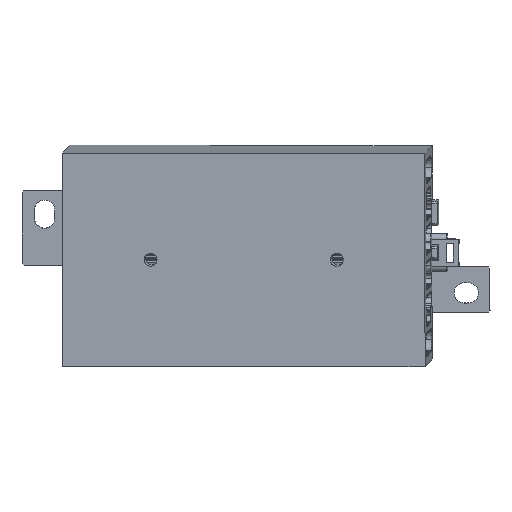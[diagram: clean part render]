
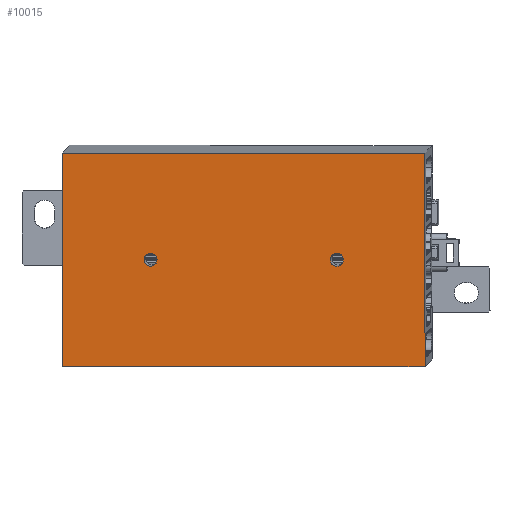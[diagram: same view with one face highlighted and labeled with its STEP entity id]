
A CAD part, top view. The second image highlights one B-rep face of the part: STEP entity #10015.
In plain terms, the highlighted planar face has unit normal (-0.034, -0.038, 0.999).
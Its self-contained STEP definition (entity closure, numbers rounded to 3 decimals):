
#64 = CARTESIAN_POINT ( 'NONE',  ( -13.419, -40.403, 77.893 ) ) ;
#491 = AXIS2_PLACEMENT_3D ( 'NONE', #21376, #1491, #9250 ) ;
#685 = ORIENTED_EDGE ( 'NONE', *, *, #8926, .T. ) ;
#735 = DIRECTION ( 'NONE',  ( -0.001, 0.999, 0.038 ) ) ;
#925 = VERTEX_POINT ( 'NONE', #7212 ) ;
#1102 = CARTESIAN_POINT ( 'NONE',  ( -13.419, -42.052, 77.83 ) ) ;
#1267 = VERTEX_POINT ( 'NONE', #25517 ) ;
#1382 = ORIENTED_EDGE ( 'NONE', *, *, #21923, .T. ) ;
#1434 = VERTEX_POINT ( 'NONE', #9667 ) ;
#1491 = DIRECTION ( 'NONE',  ( 0.034, 0.038, -0.999 ) ) ;
#1920 = CARTESIAN_POINT ( 'NONE',  ( -83.31, -67.538, 74.454 ) ) ;
#2940 = DIRECTION ( 'NONE',  ( 0., -0.999, -0.038 ) ) ;
#3654 = AXIS2_PLACEMENT_3D ( 'NONE', #17298, #22976, #15250 ) ;
#4037 = ORIENTED_EDGE ( 'NONE', *, *, #5801, .T. ) ;
#4265 = CIRCLE ( 'NONE', #3654, 1.65 ) ;
#4399 = DIRECTION ( 'NONE',  ( -0.034, -0.038, 0.999 ) ) ;
#4877 = DIRECTION ( 'NONE',  ( 0.034, 0.038, -0.999 ) ) ;
#5801 = EDGE_CURVE ( 'NONE', #10524, #7488, #12225, .T. ) ;
#5899 = EDGE_CURVE ( 'NONE', #925, #13263, #4265, .T. ) ;
#6060 = EDGE_CURVE ( 'NONE', #1267, #1434, #8089, .T. ) ;
#6921 = CARTESIAN_POINT ( 'NONE',  ( -60.891, -40.372, 76.262 ) ) ;
#7212 = CARTESIAN_POINT ( 'NONE',  ( -13.419, -38.755, 77.956 ) ) ;
#7488 = VERTEX_POINT ( 'NONE', #1920 ) ;
#7828 = ORIENTED_EDGE ( 'NONE', *, *, #13111, .T. ) ;
#7847 = CARTESIAN_POINT ( 'NONE',  ( -119.754, 55531.507, 2195.897 ) ) ;
#8089 = CIRCLE ( 'NONE', #491, 1.65 ) ;
#8794 = FACE_BOUND ( 'NONE', #9264, .T. ) ;
#8926 = EDGE_CURVE ( 'NONE', #13263, #925, #14846, .T. ) ;
#9045 = AXIS2_PLACEMENT_3D ( 'NONE', #7847, #4399, #10755 ) ;
#9134 = LINE ( 'NONE', #9525, #23375 ) ;
#9250 = DIRECTION ( 'NONE',  ( 0., -0.999, -0.038 ) ) ;
#9264 = EDGE_LOOP ( 'NONE', ( #685, #25324 ) ) ;
#9426 = VECTOR ( 'NONE', #735, 1000. ) ;
#9440 = VERTEX_POINT ( 'NONE', #23721 ) ;
#9472 = VECTOR ( 'NONE', #12736, 1000. ) ;
#9525 = CARTESIAN_POINT ( 'NONE',  ( 9., -13.238, 79.701 ) ) ;
#9667 = CARTESIAN_POINT ( 'NONE',  ( -60.891, -38.723, 76.325 ) ) ;
#9769 = PLANE ( 'NONE',  #9045 ) ;
#9834 = EDGE_LOOP ( 'NONE', ( #4037, #23228, #23597, #1382 ) ) ;
#10005 = DIRECTION ( 'NONE',  ( 0.034, 0.038, -0.999 ) ) ;
#10015 = ADVANCED_FACE ( 'NONE', ( #22738, #17968, #8794 ), #9769, .T. ) ;
#10524 = VERTEX_POINT ( 'NONE', #12433 ) ;
#10755 = DIRECTION ( 'NONE',  ( 0., -0.999, -0.038 ) ) ;
#10934 = VECTOR ( 'NONE', #15883, 1000. ) ;
#11813 = EDGE_LOOP ( 'NONE', ( #21134, #7828 ) ) ;
#12225 = LINE ( 'NONE', #21840, #10934 ) ;
#12250 = DIRECTION ( 'NONE',  ( 0., -0.999, -0.038 ) ) ;
#12433 = CARTESIAN_POINT ( 'NONE',  ( -83.346, -13.177, 76.529 ) ) ;
#12736 = DIRECTION ( 'NONE',  ( 0.999, -0.001, 0.034 ) ) ;
#13111 = EDGE_CURVE ( 'NONE', #1434, #1267, #23156, .T. ) ;
#13263 = VERTEX_POINT ( 'NONE', #1102 ) ;
#14797 = LINE ( 'NONE', #18646, #9426 ) ;
#14846 = CIRCLE ( 'NONE', #24313, 1.65 ) ;
#14998 = DIRECTION ( 'NONE',  ( -0.999, 0.001, -0.034 ) ) ;
#15250 = DIRECTION ( 'NONE',  ( 0., -0.999, -0.038 ) ) ;
#15473 = LINE ( 'NONE', #16694, #9472 ) ;
#15883 = DIRECTION ( 'NONE',  ( 0.001, -0.999, -0.038 ) ) ;
#16694 = CARTESIAN_POINT ( 'NONE',  ( -83.31, -67.538, 74.454 ) ) ;
#17298 = CARTESIAN_POINT ( 'NONE',  ( -13.419, -40.403, 77.893 ) ) ;
#17968 = FACE_BOUND ( 'NONE', #11813, .T. ) ;
#18646 = CARTESIAN_POINT ( 'NONE',  ( 9.036, -67.598, 77.627 ) ) ;
#19315 = VERTEX_POINT ( 'NONE', #26066 ) ;
#19766 = AXIS2_PLACEMENT_3D ( 'NONE', #6921, #4877, #2940 ) ;
#20421 = EDGE_CURVE ( 'NONE', #7488, #19315, #15473, .T. ) ;
#21134 = ORIENTED_EDGE ( 'NONE', *, *, #6060, .T. ) ;
#21376 = CARTESIAN_POINT ( 'NONE',  ( -60.891, -40.372, 76.262 ) ) ;
#21800 = EDGE_CURVE ( 'NONE', #19315, #9440, #14797, .T. ) ;
#21840 = CARTESIAN_POINT ( 'NONE',  ( -83.346, -13.177, 76.529 ) ) ;
#21923 = EDGE_CURVE ( 'NONE', #9440, #10524, #9134, .T. ) ;
#22738 = FACE_OUTER_BOUND ( 'NONE', #9834, .T. ) ;
#22976 = DIRECTION ( 'NONE',  ( 0.034, 0.038, -0.999 ) ) ;
#23156 = CIRCLE ( 'NONE', #19766, 1.65 ) ;
#23228 = ORIENTED_EDGE ( 'NONE', *, *, #20421, .T. ) ;
#23375 = VECTOR ( 'NONE', #14998, 1000. ) ;
#23597 = ORIENTED_EDGE ( 'NONE', *, *, #21800, .T. ) ;
#23721 = CARTESIAN_POINT ( 'NONE',  ( 9., -13.238, 79.701 ) ) ;
#24313 = AXIS2_PLACEMENT_3D ( 'NONE', #64, #10005, #12250 ) ;
#25324 = ORIENTED_EDGE ( 'NONE', *, *, #5899, .T. ) ;
#25517 = CARTESIAN_POINT ( 'NONE',  ( -60.891, -42.021, 76.199 ) ) ;
#26066 = CARTESIAN_POINT ( 'NONE',  ( 9.036, -67.598, 77.627 ) ) ;
